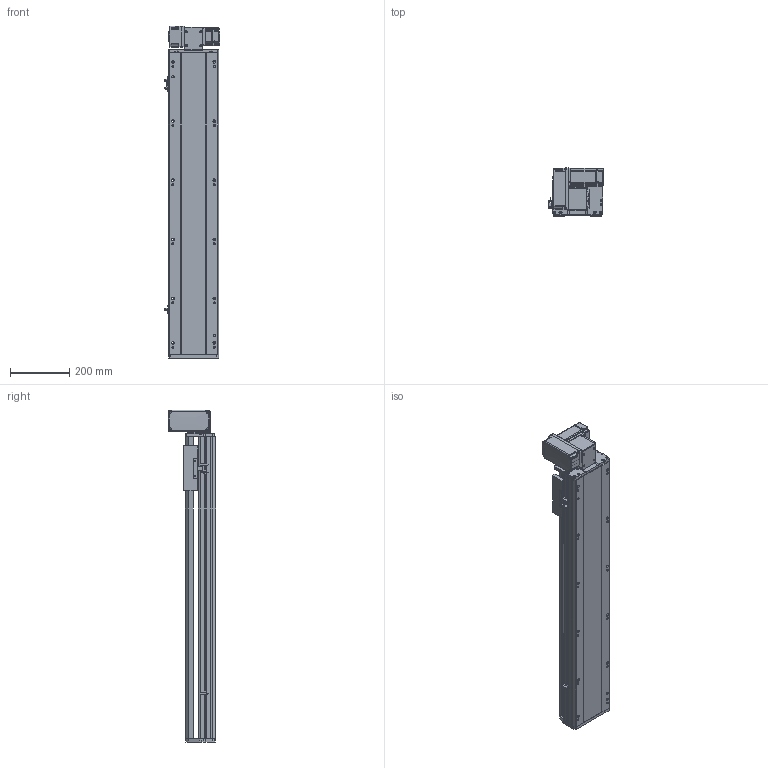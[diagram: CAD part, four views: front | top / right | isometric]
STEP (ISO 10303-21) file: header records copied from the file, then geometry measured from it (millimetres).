
FILE_DESCRIPTION (( 'STEP AP214' ), '1' );
FILE_NAME ('RTB17S-XX-750-LW-M40-C4.STEP', '2025-12-11T07:00:53', ( '' ), ( '' ), 'SwSTEP 2.0', 'SolidWorks 2018', '' );
FILE_SCHEMA (( 'AUTOMOTIVE_DESIGN' ));
Length unit declared in the file: millimetre
Products named in the file (14): 400W侜督萇儂^RTB17S-XX-XX-LW-M40-C4; RTB17S-XX-750-LW-M40-C4; RTB14-L-017P^RTB17S-LW-々湍釱蚾饜-400W_RTB17S-XX-XX-LW-M40-C4; RTB17S-L-004佪裝蹟譫蟀諉釱^RTB17S-XX-XX-LW-M40-C4; RTB14-L-008-M20--萇儂啣^RTB17S-LW-々湍釱蚾饜-400W_RTB17S-XX-XX-LW-M40-C4; RTB17S-L-001耜醱啣^RTB17S-XX-XX-LW-M40-C4; RTH13-BL-012覜茼え俋离^RTB17S-XX-XX-LW-M40-C4; RTB17S-L-007奻裔^RTB17S-XX-XX-LW-M40-C4; RTB14-L-018P^RTB17S-LW-々湍釱蚾饜-400W_RTB17S-XX-XX-LW-M40-C4; RTB17S-LW-々湍釱蚾饜-400W^RTB17S-XX-XX-LW-M40-C4; OMRON EE-SX672 传感器^RTB17S-XX-XX-LW-M40-C4; RTB17S-L-014-T20--々湍釱^RTB17S-LW-々湍釱蚾饜-400W_RTB17S-XX-XX-LW-M40-C4; RTB14-L-005P--轴承塑胶压盖^RTB17S-LW-皮带座装配-400W_RTB17S-XX-XX-LW-M40-C4; RTB17-R-011菁釱^RTB17S-XX-XX-LW-M40-C4
Assembly tree (16 placements, depth 3):
  RTB17S-XX-750-LW-M40-C4
    RTB17-R-011菁釱^RTB17S-XX-XX-LW-M40-C4
    RTB17S-L-007奻裔^RTB17S-XX-XX-LW-M40-C4
    OMRON EE-SX672 传感器^RTB17S-XX-XX-LW-M40-C4  x3
    RTB17S-L-001耜醱啣^RTB17S-XX-XX-LW-M40-C4
    400W侜督萇儂^RTB17S-XX-XX-LW-M40-C4
    RTB17S-L-004佪裝蹟譫蟀諉釱^RTB17S-XX-XX-LW-M40-C4
    RTH13-BL-012覜茼え俋离^RTB17S-XX-XX-LW-M40-C4
    RTB17S-LW-々湍釱蚾饜-400W^RTB17S-XX-XX-LW-M40-C4
      RTB17S-L-014-T20--々湍釱^RTB17S-LW-々湍釱蚾饜-400W_RTB17S-XX-XX-LW-M40-C4
      RTB14-L-005P--轴承塑胶压盖^RTB17S-LW-皮带座装配-400W_RTB17S-XX-XX-LW-M40-C4
      RTB14-L-008-M20--萇儂啣^RTB17S-LW-々湍釱蚾饜-400W_RTB17S-XX-XX-LW-M40-C4
      RTB14-L-017P^RTB17S-LW-々湍釱蚾饜-400W_RTB17S-XX-XX-LW-M40-C4  x2
      RTB14-L-018P^RTB17S-LW-々湍釱蚾饜-400W_RTB17S-XX-XX-LW-M40-C4
Bounding box: 186 x 160.5 x 1122.5 mm (x, y, z)
Volume: 10335640.5 mm3; surface area: 1275742 mm2
Topology: 15 solids, 15 shells, 2189 faces, 6033 edges, 3933 vertices
Faces by surface type: plane 1066, cylinder 675, bspline 301, cone 139, torus 8
Entity records: 61865 total; most frequent: CARTESIAN_POINT 17238, ORIENTED_EDGE 8910, DIRECTION 8306, EDGE_CURVE 4455, VERTEX_POINT 2921, AXIS2_PLACEMENT_3D 2851, LINE 2604, VECTOR 2604
